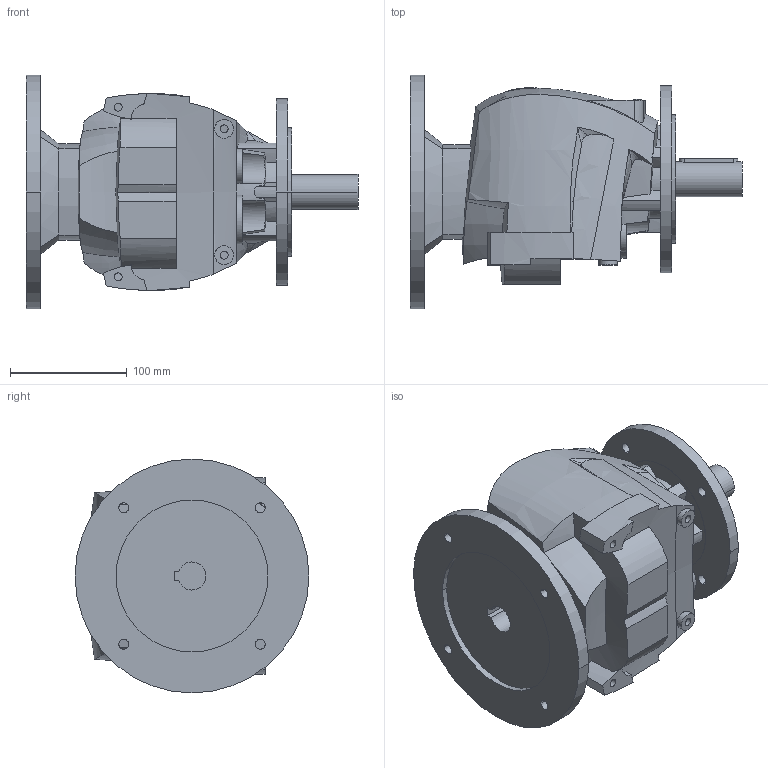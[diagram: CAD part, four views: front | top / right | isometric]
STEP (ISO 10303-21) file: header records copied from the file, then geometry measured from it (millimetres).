
FILE_DESCRIPTION((''),'2;1');
FILE_NAME('R25_160_PAM90_D2','2013-12-17T',('Luca'),(''),'PRO/ENGINEER BY PARAMETRIC TECHNOLOGY CORPORATION, 2008230','PRO/ENGINEER BY PARAMETRIC TECHNOLOGY CORPORATION, 2008230','');
FILE_SCHEMA(('CONFIG_CONTROL_DESIGN'));
Length unit declared in the file: millimetre
Products named in the file (1): R25_160_PAM90_D2
Bounding box: 284 x 200 x 200 mm (x, y, z)
Volume: 3694433.1 mm3; surface area: 250942.1 mm2
Topology: 1 solids, 7 shells, 404 faces, 1075 edges, 717 vertices
Faces by surface type: plane 148, cylinder 130, bspline 112, cone 8, torus 6
Entity records: 18341 total; most frequent: CARTESIAN_POINT 9069, ORIENTED_EDGE 2146, DIRECTION 1521, EDGE_CURVE 1073, VERTEX_POINT 717, AXIS2_PLACEMENT_3D 536, EDGE_LOOP 454, VECTOR 449
